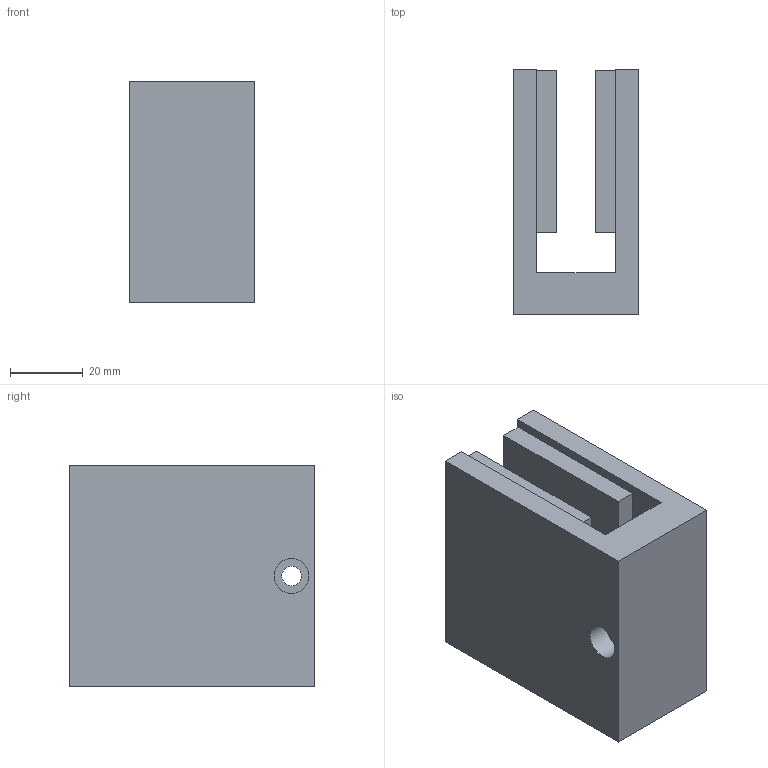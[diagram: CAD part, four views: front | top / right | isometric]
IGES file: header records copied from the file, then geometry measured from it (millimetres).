
Global section: file name: No Iges File Name specified; native system: Autodesk Inventor 2012; preprocessor: AutoDesk Inventor Iges Exporter R2012; author: je17857; date: 20120511.155615; units: inch
Bounding box: 34.29 x 67.31 x 60.71 mm (x, y, z)
Volume: 90365.1 mm3; surface area: 25104.2 mm2
Topology: 1 solids, 1 shells, 35 faces, 81 edges, 54 vertices
Faces by surface type: plane 32, revolution 3
